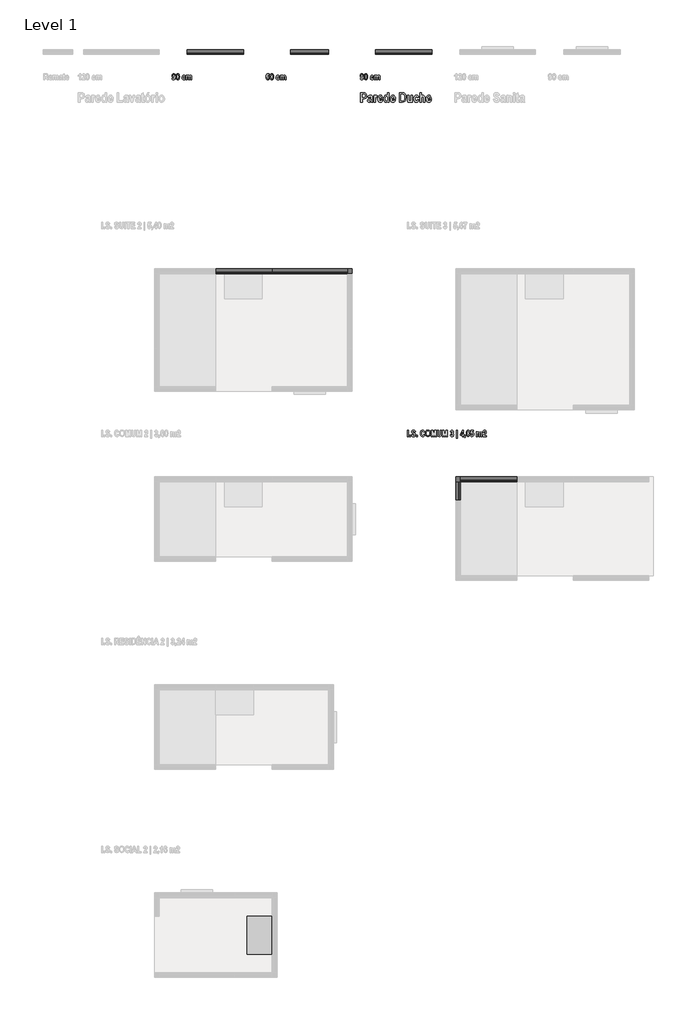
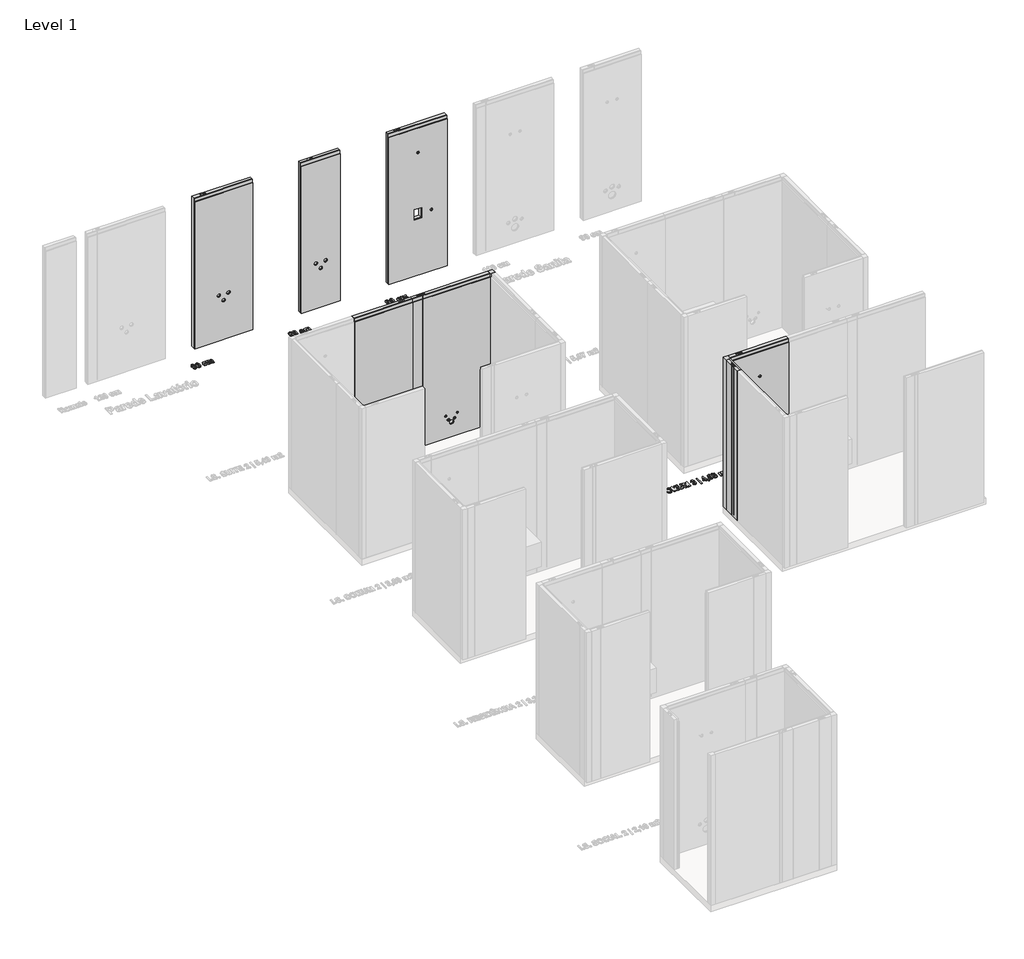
# One storey, part 7 of 10: 15 proxies.
"""IFC4 building model written with IfcOpenShell, lengths in millimetres."""

from ifc_helpers import new_model, si_unit, origin, origin_with_axes, place, context, project, spatial, polyline, outline, extrude, transform, mapped, element, save
from components import generic_models_34b291b7, generic_models_1e0aeaca, generic_models_8d7f3108, generic_models_38e5dddb, generic_models_87e237a0, generic_models_d659e27f, generic_models_1b192000, generic_models_15d7caf9

model = new_model("IFC4")

# Units and contexts
model_context = context("Model", 3, world=origin())
ifc_project = project(units=[si_unit("LENGTHUNIT", "METRE", prefix="MILLI")], contexts=[model_context])

# Site, building, storey
site = spatial("IfcSite", under=ifc_project)
building = spatial("IfcBuilding", under=site)
storey = spatial("IfcBuildingStorey", under=building, Name="Level 1", Elevation=0.0)

# Proxies
placement = place(None, origin())
generic_models_shape = generic_models_34b291b7(model_context)
element("IfcBuildingElementProxy", 1, Name="ParedeLavatório_Blufab : Parede Lavatório - Largura 60 cm", ObjectType="ParedeLavatório_Blufab : Parede Lavatório - Largura 60 cm", at=placement, inside=storey, context=model_context, shape_type="MappedRepresentation", body=[
    mapped(generic_models_shape, transform((-1800.8727752, 7918.7563997, 0.0), x_axis=(1.0, 0.0, 0.0), y_axis=(0.0, 1.0, 0.0), z_axis=(0.0, 0.0, 1.0))),
])
generic_models_2_shape = generic_models_1e0aeaca(model_context)
element("IfcBuildingElementProxy", 2, Name="ParedeLavatório_Blufab : Parede Lavatório - Largura 90 cm", ObjectType="ParedeLavatório_Blufab : Parede Lavatório - Largura 90 cm", at=placement, inside=storey, context=model_context, shape_type="MappedRepresentation", body=[
    mapped(generic_models_2_shape, transform((-3450.8727752, 7918.7563997, 0.0), x_axis=(1.0, 0.0, 0.0), y_axis=(0.0, 1.0, 0.0), z_axis=(0.0, 0.0, 1.0))),
])
generic_models_3_shape = generic_models_8d7f3108(model_context)
element("IfcBuildingElementProxy", 3, Name="ParedeDuche_Blufab : Parede Duche- Largura 90 cm", ObjectType="ParedeDuche_Blufab : Parede Duche- Largura 90 cm", at=placement, inside=storey, context=model_context, shape_type="MappedRepresentation", body=[
    mapped(generic_models_3_shape, transform((-450.8727752, 7918.7563997, 0.0), x_axis=(1.0, 0.0, 0.0), y_axis=(0.0, 1.0, 0.0), z_axis=(0.0, 0.0, 1.0))),
])
element("IfcBuildingElementProxy", 4, Name="ParedeDuche_Blufab : Parede Duche- Largura 90 cm", ObjectType="ParedeDuche_Blufab : Parede Duche- Largura 90 cm", at=placement, inside=storey, context=model_context, shape_type="MappedRepresentation", body=[
    mapped(generic_models_3_shape, transform((903.6595429, 1114.1909428, 0.0), x_axis=(1.0, 0.0, 0.0), y_axis=(0.0, 1.0, 0.0), z_axis=(0.0, 0.0, 1.0))),
])
generic_models_4_shape = generic_models_38e5dddb(model_context)
element("IfcBuildingElementProxy", 5, Name="ParedeBidé_Blufab : Parede Bidé- Largura 120 cm", ObjectType="ParedeBidé_Blufab : Parede Bidé- Largura 120 cm", at=placement, inside=storey, context=model_context, shape_type="MappedRepresentation", body=[
    mapped(generic_models_4_shape, transform((-2096.3404571, 4427.3727477, 0.0), x_axis=(1.0, 0.0, 0.0), y_axis=(0.0, 1.0, 0.0), z_axis=(0.0, 0.0, 1.0))),
])
generic_models_5_shape = generic_models_87e237a0(model_context)
element("IfcBuildingElementProxy", 6, Name="PerfilCanto_Blufab : Parede Geral - Largura 60 cm", ObjectType="PerfilCanto_Blufab : Parede Geral - Largura 60 cm", at=placement, inside=storey, context=model_context, shape_type="MappedRepresentation", body=[
    mapped(generic_models_5_shape, transform((-896.3404571, 4427.3727477, 0.0), x_axis=(1.0, 0.0, 0.0), y_axis=(0.0, 1.0, 0.0), z_axis=(0.0, 0.0, 1.0))),
])
element("IfcBuildingElementProxy", 7, Name="PerfilCanto_Blufab : Parede Geral - Largura 60 cm", ObjectType="PerfilCanto_Blufab : Parede Geral - Largura 60 cm", at=placement, inside=storey, context=model_context, shape_type="MappedRepresentation", body=[
    mapped(generic_models_5_shape, transform((830.6595429, 1114.1909428, 0.0), x_axis=(1.0, 0.0, 0.0), y_axis=(0.0, 1.0, 0.0), z_axis=(0.0, 0.0, 1.0))),
])
generic_models_6_shape = generic_models_d659e27f(model_context)
element("IfcBuildingElementProxy", 8, Name="ParedeLavatório_Blufab : Parede Lavatório - Largura 90 cm", ObjectType="ParedeLavatório_Blufab : Parede Lavatório - Largura 90 cm", at=placement, inside=storey, context=model_context, shape_type="MappedRepresentation", body=[
    mapped(generic_models_6_shape, transform((-2096.3404571, 4427.3727477, 0.0), x_axis=(-1.0, 0.0, 0.0), y_axis=(0.0, -1.0, 0.0), z_axis=(0.0, 0.0, 1.0))),
])
generic_models_7_shape = generic_models_1b192000(model_context)
element("IfcBuildingElementProxy", 9, Name="ParedeGeral_Blufab : Parede Geral - Largura 30 cm", ObjectType="ParedeGeral_Blufab : Parede Geral - Largura 30 cm", at=placement, inside=storey, context=model_context, shape_type="MappedRepresentation", body=[
    mapped(generic_models_7_shape, transform((903.6595429, 1114.1909428, 0.0), x_axis=(0.0, -1.0, 0.0), y_axis=(1.0, 0.0, 0.0), z_axis=(0.0, 0.0, 1.0))),
])
generic_models_8_shape = generic_models_15d7caf9(model_context)
element("IfcBuildingElementProxy", 10, Name="Movél2 : Movél", ObjectType="Movél2 : Movél", at=placement, inside=storey, context=model_context, shape_type="MappedRepresentation", body=[
    mapped(generic_models_8_shape, transform((-13176.7778994, 13179.3735786, 0.0), x_axis=(0.0, -1.0, 0.0), y_axis=(1.0, 0.0, 0.0), z_axis=(0.0, 0.0, 1.0))),
])
element("IfcBuildingElementProxy", 11, Name="24\" Arial", ObjectType="24\" Arial", at=placement, inside=storey, context=model_context, shape_type="SweptSolid", body=[
    extrude(outline(polyline([(-3693.2675308, 7537.2422205), (-3677.0225947, 7538.8667141), (-3674.1860766, 7530.3381226), (-3667.9102009, 7527.4952588), (-3659.0643255, 7532.9906161), (-3654.6350422, 7555.39086), (-3661.5518314, 7549.1086386), (-3670.0931142, 7546.9891821), (-3679.3006932, 7549.2228608), (-3687.3787415, 7555.923897), (-3693.0137037, 7566.3181178), (-3694.8920244, 7579.6313506), (-3692.9819753, 7593.7758672), (-3687.2518279, 7604.5317917), (-3678.7232365, 7611.328013), (-3668.4178551, 7613.5934201), (-3657.0019801, 7610.6648896), (-3647.7817098, 7601.8792982), (-3641.6898587, 7586.3101768), (-3639.6592417, 7563.0310565), (-3641.7723525, 7539.3140844), (-3648.111685, 7523.3451853), (-3657.8205726, 7514.2740384), (-3670.0423487, 7511.2503227), (-3678.5677673, 7512.8430879), (-3685.4623467, 7517.6213836), (-3690.4532225, 7525.7121233), (-3693.2675308, 7537.2422205)]), holes=[polyline([(-3655.9041778, 7579.2252272), (-3659.6100538, 7592.6526822), (-3668.0117317, 7597.348484), (-3675.6138542, 7593.4776203), (-3678.6470883, 7580.5958937), (-3675.3346443, 7567.4222658), (-3667.1741022, 7563.2341182), (-3659.2166218, 7567.2318955), (-3655.9041778, 7579.2252272)])]), origin_with_axes(), (0.0, 0.0, 1.0), 10.0),
    extrude(outline(polyline([(-3603.1335182, 7613.5934201), (-3592.2760629, 7610.7473834), (-3583.715743, 7602.2092735), (-3578.156929, 7586.564004), (-3576.303991, 7562.3964887), (-3578.156929, 7538.2670475), (-3583.715743, 7522.6344693), (-3592.2633715, 7514.0963594), (-3603.0827528, 7511.2503227), (-3613.9402081, 7514.0709767), (-3622.500528, 7522.5329385), (-3628.059342, 7538.1908994), (-3629.9122801, 7562.5995504), (-3628.059342, 7586.6147694), (-3622.500528, 7602.2092735), (-3613.9528995, 7610.7473834), (-3603.1335182, 7613.5934201)]), holes=[polyline([(-3603.1081355, 7597.348484), (-3610.7990974, 7591.256633), (-3613.667344, 7562.3964887), (-3610.7990974, 7533.5617271), (-3603.1081355, 7527.4952588), (-3595.3790995, 7533.5871099), (-3592.548927, 7562.3964887), (-3595.3790995, 7591.256633), (-3603.1081355, 7597.348484)])]), origin_with_axes(), (0.0, 0.0, 1.0), 10.0),
    extrude(outline(polyline([(-3478.8343744, 7564.8586118), (-3495.0793105, 7561.6096246), (-3498.4869397, 7568.9198458), (-3505.4100746, 7571.3565863), (-3514.4082462, 7566.5719449), (-3517.822221, 7550.4158483), (-3514.5224684, 7532.6733322), (-3505.6892844, 7527.4952588), (-3498.8867174, 7530.3635053), (-3495.0793105, 7540.4912077), (-3478.8343744, 7537.2422205), (-3482.2880098, 7525.8707652), (-3487.9531139, 7517.7482972), (-3495.829687, 7512.8748163), (-3505.9177288, 7511.2503227), (-3518.3838136, 7514.0360754), (-3527.1503679, 7522.3933336), (-3532.3379598, 7534.6722208), (-3534.0671571, 7549.2228608), (-3532.0809599, 7565.7596981), (-3526.1223681, 7577.8037953), (-3516.9401718, 7585.1520906), (-3505.283161, 7587.6015223), (-3495.8154092, 7586.2403744), (-3488.2767435, 7582.1569305), (-3478.8343744, 7564.8586118)])), origin_with_axes(), (0.0, 0.0, 1.0), 10.0),
    extrude(outline(polyline([(-3467.4629192, 7585.9770287), (-3452.8424767, 7585.9770287), (-3452.8424767, 7576.0777708), (-3444.2885025, 7584.7459672), (-3434.2369483, 7587.6015223), (-3424.2996163, 7584.7332758), (-3417.4082098, 7576.0523881), (-3408.9050011, 7584.7332758), (-3399.2341876, 7587.6015223), (-3388.7384359, 7584.6825104), (-3382.0373998, 7576.3189066), (-3379.7402643, 7559.6043903), (-3379.7402643, 7512.8748163), (-3395.9852004, 7512.8748163), (-3395.9852004, 7553.6394528), (-3397.8508297, 7567.8283892), (-3404.1076684, 7571.3565863), (-3412.35705, 7566.4196487), (-3415.4791237, 7547.1160957), (-3415.4791237, 7512.8748163), (-3431.7240598, 7512.8748163), (-3431.7240598, 7551.9641938), (-3432.9678127, 7566.9146115), (-3439.6434661, 7571.3565863), (-3445.8622307, 7569.0721421), (-3449.9615388, 7562.3964887), (-3451.2179831, 7547.5222191), (-3451.2179831, 7512.8748163), (-3467.4629192, 7512.8748163), (-3467.4629192, 7585.9770287)])), origin_with_axes(), (0.0, 0.0, 1.0), 10.0),
])
element("IfcBuildingElementProxy", 12, Name="24\" Arial", ObjectType="24\" Arial", at=placement, inside=storey, context=model_context, shape_type="SweptSolid", body=[
    extrude(outline(polyline([(-2141.2837353, 7587.6015223), (-2157.5286714, 7585.9770287), (-2160.1875106, 7594.5056202), (-2166.0826456, 7597.348484), (-2174.1924223, 7591.8150526), (-2178.2663476, 7569.3767347), (-2171.6922251, 7575.7351042), (-2163.6966706, 7577.8545607), (-2154.6477335, 7575.6145363), (-2146.8425494, 7568.8944631), (-2141.4550686, 7558.4558226), (-2139.6592417, 7545.060096), (-2141.5121797, 7530.9504806), (-2147.0709938, 7520.2484944), (-2155.3647952, 7513.4998656), (-2165.422695, 7511.2503227), (-2176.4229281, 7514.182026), (-2185.3608158, 7522.977136), (-2191.2908521, 7538.5557759), (-2193.2675308, 7561.838069), (-2191.2178768, 7585.5360041), (-2185.0689146, 7601.4985575), (-2175.7026937, 7610.5697044), (-2164.0012631, 7613.5934201), (-2155.8343753, 7611.9816178), (-2149.0508454, 7607.1462111), (-2144.0631423, 7599.0364344), (-2141.2837353, 7587.6015223)]), holes=[polyline([(-2177.0225947, 7545.6692811), (-2173.6086199, 7532.1656779), (-2165.8034357, 7527.4952588), (-2158.7216589, 7531.3661225), (-2155.9041778, 7544.0701702), (-2158.9627947, 7557.421477), (-2166.5395344, 7561.6096246), (-2173.9639778, 7557.6118474), (-2177.0225947, 7545.6692811)])]), origin_with_axes(), (0.0, 0.0, 1.0), 10.0),
    extrude(outline(polyline([(-2103.1335182, 7613.5934201), (-2092.2760629, 7610.7473834), (-2083.715743, 7602.2092735), (-2078.156929, 7586.564004), (-2076.303991, 7562.3964887), (-2078.156929, 7538.2670475), (-2083.715743, 7522.6344693), (-2092.2633715, 7514.0963594), (-2103.0827528, 7511.2503227), (-2113.9402081, 7514.0709767), (-2122.500528, 7522.5329385), (-2128.059342, 7538.1908994), (-2129.9122801, 7562.5995504), (-2128.059342, 7586.6147694), (-2122.500528, 7602.2092735), (-2113.9528995, 7610.7473834), (-2103.1335182, 7613.5934201)]), holes=[polyline([(-2103.1081355, 7597.348484), (-2110.7990974, 7591.256633), (-2113.667344, 7562.3964887), (-2110.7990974, 7533.5617271), (-2103.1081355, 7527.4952588), (-2095.3790995, 7533.5871099), (-2092.548927, 7562.3964887), (-2095.3790995, 7591.256633), (-2103.1081355, 7597.348484)])]), origin_with_axes(), (0.0, 0.0, 1.0), 10.0),
    extrude(outline(polyline([(-1978.8343744, 7564.8586118), (-1995.0793105, 7561.6096246), (-1998.4869397, 7568.9198458), (-2005.4100746, 7571.3565863), (-2014.4082462, 7566.5719449), (-2017.822221, 7550.4158483), (-2014.5224684, 7532.6733322), (-2005.6892844, 7527.4952588), (-1998.8867174, 7530.3635053), (-1995.0793105, 7540.4912077), (-1978.8343744, 7537.2422205), (-1982.2880098, 7525.8707652), (-1987.9531139, 7517.7482972), (-1995.829687, 7512.8748163), (-2005.9177288, 7511.2503227), (-2018.3838136, 7514.0360754), (-2027.1503679, 7522.3933336), (-2032.3379598, 7534.6722208), (-2034.0671571, 7549.2228608), (-2032.0809599, 7565.7596981), (-2026.1223681, 7577.8037953), (-2016.9401718, 7585.1520906), (-2005.283161, 7587.6015223), (-1995.8154092, 7586.2403744), (-1988.2767435, 7582.1569305), (-1978.8343744, 7564.8586118)])), origin_with_axes(), (0.0, 0.0, 1.0), 10.0),
    extrude(outline(polyline([(-1967.4629192, 7585.9770287), (-1952.8424767, 7585.9770287), (-1952.8424767, 7576.0777708), (-1944.2885025, 7584.7459672), (-1934.2369483, 7587.6015223), (-1924.2996163, 7584.7332758), (-1917.4082098, 7576.0523881), (-1908.9050011, 7584.7332758), (-1899.2341876, 7587.6015223), (-1888.7384359, 7584.6825104), (-1882.0373998, 7576.3189066), (-1879.7402643, 7559.6043903), (-1879.7402643, 7512.8748163), (-1895.9852004, 7512.8748163), (-1895.9852004, 7553.6394528), (-1897.8508297, 7567.8283892), (-1904.1076684, 7571.3565863), (-1912.35705, 7566.4196487), (-1915.4791237, 7547.1160957), (-1915.4791237, 7512.8748163), (-1931.7240598, 7512.8748163), (-1931.7240598, 7551.9641938), (-1932.9678127, 7566.9146115), (-1939.6434661, 7571.3565863), (-1945.8622307, 7569.0721421), (-1949.9615388, 7562.3964887), (-1951.2179831, 7547.5222191), (-1951.2179831, 7512.8748163), (-1967.4629192, 7512.8748163), (-1967.4629192, 7585.9770287)])), origin_with_axes(), (0.0, 0.0, 1.0), 10.0),
])
element("IfcBuildingElementProxy", 13, Name="24\" Arial", ObjectType="24\" Arial", at=placement, inside=storey, context=model_context, shape_type="SweptSolid", body=[
    extrude(outline(polyline([(-693.2675308, 7537.2422205), (-677.0225947, 7538.8667141), (-674.1860766, 7530.3381226), (-667.9102009, 7527.4952588), (-659.0643255, 7532.9906161), (-654.6350422, 7555.39086), (-661.5518314, 7549.1086386), (-670.0931142, 7546.9891821), (-679.3006932, 7549.2228608), (-687.3787415, 7555.923897), (-693.0137037, 7566.3181178), (-694.8920244, 7579.6313506), (-692.9819753, 7593.7758672), (-687.2518279, 7604.5317917), (-678.7232365, 7611.328013), (-668.4178551, 7613.5934201), (-657.0019801, 7610.6648896), (-647.7817098, 7601.8792982), (-641.6898587, 7586.3101768), (-639.6592417, 7563.0310565), (-641.7723525, 7539.3140844), (-648.111685, 7523.3451853), (-657.8205726, 7514.2740384), (-670.0423487, 7511.2503227), (-678.5677673, 7512.8430879), (-685.4623467, 7517.6213836), (-690.4532225, 7525.7121233), (-693.2675308, 7537.2422205)]), holes=[polyline([(-655.9041778, 7579.2252272), (-659.6100538, 7592.6526822), (-668.0117317, 7597.348484), (-675.6138542, 7593.4776203), (-678.6470883, 7580.5958937), (-675.3346443, 7567.4222658), (-667.1741022, 7563.2341182), (-659.2166218, 7567.2318955), (-655.9041778, 7579.2252272)])]), origin_with_axes(), (0.0, 0.0, 1.0), 10.0),
    extrude(outline(polyline([(-603.1335182, 7613.5934201), (-592.2760629, 7610.7473834), (-583.715743, 7602.2092735), (-578.156929, 7586.564004), (-576.303991, 7562.3964887), (-578.156929, 7538.2670475), (-583.715743, 7522.6344693), (-592.2633715, 7514.0963594), (-603.0827528, 7511.2503227), (-613.9402081, 7514.0709767), (-622.500528, 7522.5329385), (-628.059342, 7538.1908994), (-629.9122801, 7562.5995504), (-628.059342, 7586.6147694), (-622.500528, 7602.2092735), (-613.9528995, 7610.7473834), (-603.1335182, 7613.5934201)]), holes=[polyline([(-603.1081355, 7597.348484), (-610.7990974, 7591.256633), (-613.667344, 7562.3964887), (-610.7990974, 7533.5617271), (-603.1081355, 7527.4952588), (-595.3790995, 7533.5871099), (-592.548927, 7562.3964887), (-595.3790995, 7591.256633), (-603.1081355, 7597.348484)])]), origin_with_axes(), (0.0, 0.0, 1.0), 10.0),
    extrude(outline(polyline([(-478.8343744, 7564.8586118), (-495.0793105, 7561.6096246), (-498.4869397, 7568.9198458), (-505.4100746, 7571.3565863), (-514.4082462, 7566.5719449), (-517.822221, 7550.4158483), (-514.5224684, 7532.6733322), (-505.6892844, 7527.4952588), (-498.8867174, 7530.3635053), (-495.0793105, 7540.4912077), (-478.8343744, 7537.2422205), (-482.2880098, 7525.8707652), (-487.9531139, 7517.7482972), (-495.829687, 7512.8748163), (-505.9177288, 7511.2503227), (-518.3838136, 7514.0360754), (-527.1503679, 7522.3933336), (-532.3379598, 7534.6722208), (-534.0671571, 7549.2228608), (-532.0809599, 7565.7596981), (-526.1223681, 7577.8037953), (-516.9401718, 7585.1520906), (-505.283161, 7587.6015223), (-495.8154092, 7586.2403744), (-488.2767435, 7582.1569305), (-478.8343744, 7564.8586118)])), origin_with_axes(), (0.0, 0.0, 1.0), 10.0),
    extrude(outline(polyline([(-467.4629192, 7585.9770287), (-452.8424767, 7585.9770287), (-452.8424767, 7576.0777708), (-444.2885025, 7584.7459672), (-434.2369483, 7587.6015223), (-424.2996163, 7584.7332758), (-417.4082098, 7576.0523881), (-408.9050011, 7584.7332758), (-399.2341876, 7587.6015223), (-388.7384359, 7584.6825104), (-382.0373998, 7576.3189066), (-379.7402643, 7559.6043903), (-379.7402643, 7512.8748163), (-395.9852004, 7512.8748163), (-395.9852004, 7553.6394528), (-397.8508297, 7567.8283892), (-404.1076684, 7571.3565863), (-412.35705, 7566.4196487), (-415.4791237, 7547.1160957), (-415.4791237, 7512.8748163), (-431.7240598, 7512.8748163), (-431.7240598, 7551.9641938), (-432.9678127, 7566.9146115), (-439.6434661, 7571.3565863), (-445.8622307, 7569.0721421), (-449.9615388, 7562.3964887), (-451.2179831, 7547.5222191), (-451.2179831, 7512.8748163), (-467.4629192, 7512.8748163), (-467.4629192, 7585.9770287)])), origin_with_axes(), (0.0, 0.0, 1.0), 10.0),
])
element("IfcBuildingElementProxy", 14, Name="24\" Arial", ObjectType="24\" Arial", at=placement, inside=storey, context=model_context, shape_type="SweptSolid", body=[
    extrude(outline(polyline([(59.9814564, 1831.1816336), (59.9814564, 1931.9002374), (76.2263925, 1931.9002374), (76.2263925, 1831.1816336), (59.9814564, 1831.1816336)])), origin_with_axes(), (0.0, 0.0, 1.0), 10.0),
    extrude(outline(polyline([(92.4713286, 1831.1816336), (92.4713286, 1850.6755569), (108.7162647, 1850.6755569), (108.7162647, 1831.1816336), (92.4713286, 1831.1816336)])), origin_with_axes(), (0.0, 0.0, 1.0), 10.0),
    extrude(outline(polyline([(121.7122136, 1863.6715058), (137.9571496, 1865.2959994), (143.8142106, 1851.8939271), (155.9027275, 1847.4265697), (167.7564543, 1851.1832112), (172.0715154, 1860.473284), (170.5485527, 1866.0067154), (165.9035163, 1869.7633568), (151.0292467, 1874.9668129), (135.6346314, 1882.0739725), (127.85483, 1892.0239958), (124.9612008, 1905.2991545), (128.7051509, 1920.1607328), (139.0359149, 1930.1488302), (155.3189251, 1933.524731), (168.2704542, 1931.630546), (178.0364529, 1925.9479913), (184.2869459, 1916.7435851), (186.6919579, 1904.283846), (170.4470218, 1902.6593524), (165.7004546, 1912.7743634), (155.2681597, 1915.6553013), (144.8612475, 1912.9139683), (141.2061369, 1906.1114013), (144.0743834, 1899.3849825), (158.6440604, 1892.9631562), (176.6657864, 1885.0691325), (185.3212914, 1874.9287388), (188.3164515, 1859.8387162), (186.3143901, 1848.0421005), (180.3082057, 1838.2887932), (170.0377256, 1831.7400533), (155.242777, 1829.55714), (141.8486368, 1831.6892879), (131.7954962, 1838.0857314), (125.0833551, 1848.7464708), (121.7122136, 1863.6715058)])), origin_with_axes(), (0.0, 0.0, 1.0), 10.0),
    extrude(outline(polyline([(201.3124004, 1831.1816336), (201.3124004, 1850.6755569), (217.5573365, 1850.6755569), (217.5573365, 1831.1816336), (201.3124004, 1831.1816336)])), origin_with_axes(), (0.0, 0.0, 1.0), 10.0),
    extrude(outline(polyline([(318.2759402, 1868.5449866), (334.5208763, 1862.0470122), (329.5204819, 1847.420224), (322.0325817, 1837.3496328), (312.2919657, 1831.5052632), (300.5334241, 1829.55714), (286.0081668, 1832.6601766), (274.5161436, 1841.9692865), (265.9114041, 1858.8107163), (263.0431575, 1880.6525405), (265.9367868, 1903.5731301), (274.6176745, 1920.9095228), (286.4015988, 1930.3709289), (301.6502635, 1933.524731), (314.3543111, 1931.1704844), (324.7992974, 1924.1077446), (334.5208763, 1904.283846), (318.2759402, 1899.4103652), (311.8287312, 1911.4671537), (300.4826587, 1915.6553013), (291.9794499, 1913.6976596), (285.2022657, 1907.8247344), (280.7666366, 1897.4400321), (279.2880936, 1881.9470589), (280.7095255, 1865.9400857), (284.9738213, 1855.3332847), (291.5098698, 1849.4032484), (299.74656, 1847.4265697), (311.2703115, 1852.4904209), (318.2759402, 1868.5449866)])), origin_with_axes(), (0.0, 0.0, 1.0), 10.0),
    extrude(outline(polyline([(345.8923316, 1880.9317504), (351.1846272, 1910.515302), (365.0055142, 1927.826312), (374.4415376, 1932.1001262), (385.692425, 1933.524731), (401.6771883, 1930.1456574), (414.400273, 1920.0084365), (422.7194571, 1903.633414), (425.4925184, 1881.5409355), (422.5544694, 1859.0645434), (413.7403225, 1842.0962), (401.5946945, 1832.691905), (385.7685731, 1829.55714), (369.8282296, 1832.6601766), (357.6445275, 1841.9692865), (348.8303806, 1858.8043706), (345.8923316, 1880.9317504)]), holes=[polyline([(362.1372677, 1881.6170836), (363.8379094, 1866.6508017), (368.9398347, 1855.9678525), (376.5546485, 1849.5618904), (385.7939559, 1847.4265697), (395.0554731, 1849.5460262), (402.5846203, 1855.9043957), (407.5818418, 1866.6539745), (409.2475823, 1881.9470589), (407.6262616, 1896.9323779), (402.7622993, 1907.418611), (395.2775719, 1913.5961287), (385.7939559, 1915.6553013), (376.2849571, 1913.5770917), (368.7240816, 1907.3424629), (363.7839712, 1896.7546989), (362.1372677, 1881.6170836)])]), origin_with_axes(), (0.0, 0.0, 1.0), 10.0),
    extrude(outline(polyline([(438.4884673, 1831.1816336), (438.4884673, 1931.9002374), (465.3433773, 1931.9002374), (478.2885607, 1861.5647406), (491.5891021, 1931.9002374), (518.0886541, 1931.9002374), (518.0886541, 1831.1816336), (501.843718, 1831.1816336), (501.843718, 1912.1017215), (486.4617942, 1831.1816336), (469.6584384, 1831.1816336), (454.7334034, 1912.1017215), (454.7334034, 1831.1816336), (438.4884673, 1831.1816336)])), origin_with_axes(), (0.0, 0.0, 1.0), 10.0),
    extrude(outline(polyline([(534.3335902, 1931.9002374), (550.5785263, 1931.9002374), (550.5785263, 1877.7335286), (551.1877114, 1861.2855308), (556.4419329, 1851.0436063), (567.3818821, 1847.4265697), (576.7607944, 1849.9902237), (581.7358061, 1857.0846919), (583.0683985, 1876.5659238), (583.0683985, 1931.9002374), (599.3133346, 1931.9002374), (599.3133346, 1879.0534296), (597.1811867, 1849.7744706), (593.7101008, 1841.6075828), (587.5611386, 1835.1540281), (578.8802509, 1830.956362), (567.8133882, 1829.55714), (547.9260328, 1834.1894851), (537.5571947, 1847.2361994), (534.3335902, 1878.2158001), (534.3335902, 1931.9002374)])), origin_with_axes(), (0.0, 0.0, 1.0), 10.0),
    extrude(outline(polyline([(617.1827643, 1831.1816336), (617.1827643, 1931.9002374), (644.0376742, 1931.9002374), (656.9828577, 1861.5647406), (670.2833991, 1931.9002374), (696.7829511, 1931.9002374), (696.7829511, 1831.1816336), (680.538015, 1831.1816336), (680.538015, 1912.1017215), (665.1560912, 1831.1816336), (648.3527354, 1831.1816336), (633.4277004, 1912.1017215), (633.4277004, 1831.1816336), (617.1827643, 1831.1816336)])), origin_with_axes(), (0.0, 0.0, 1.0), 10.0),
    extrude(outline(polyline([(742.2687722, 1858.798025), (758.5137083, 1860.4225186), (762.067288, 1849.5587176), (769.0982994, 1845.8020761), (776.5735083, 1850.2567422), (779.6321252, 1862.6054319), (776.4719774, 1874.116492), (768.8190896, 1878.2919483), (761.7626955, 1876.8451336), (763.4633372, 1894.5368844), (772.9564717, 1897.4305136), (776.383138, 1905.9083396), (773.8321753, 1913.0662646), (767.2961268, 1915.6553013), (760.3666463, 1912.36824), (756.8892146, 1902.6593524), (742.2687722, 1904.283846), (745.6415001, 1916.7943505), (751.1907957, 1925.3388061), (758.6945601, 1930.2598796), (767.9306946, 1931.9002374), (778.1091624, 1929.9616327), (785.9524206, 1924.1458187), (790.9591607, 1915.975758), (792.628074, 1906.9744136), (789.5821485, 1895.5141188), (780.444372, 1886.5667126), (791.5746915, 1878.2158001), (795.8770613, 1862.0977776), (793.871827, 1849.2255695), (787.8561241, 1838.783756), (779.0737055, 1831.863794), (768.7683242, 1829.55714), (758.9769428, 1831.5179546), (750.8227463, 1837.4003982), (745.0164508, 1846.671434), (742.2687722, 1858.798025)])), origin_with_axes(), (0.0, 0.0, 1.0), 10.0),
    extrude(outline(polyline([(842.9873759, 1801.9407487), (842.9873759, 1933.524731), (855.9833248, 1933.524731), (855.9833248, 1801.9407487), (842.9873759, 1801.9407487)])), origin_with_axes(), (0.0, 0.0, 1.0), 10.0),
    extrude(outline(polyline([(933.959018, 1831.1816336), (933.959018, 1850.6755569), (901.4691458, 1850.6755569), (901.4691458, 1866.8443449), (936.0657832, 1931.9002374), (950.2039541, 1931.9002374), (950.2039541, 1866.920493), (959.9509158, 1866.920493), (959.9509158, 1850.6755569), (950.2039541, 1850.6755569), (950.2039541, 1831.1816336), (933.959018, 1831.1816336)]), holes=[polyline([(933.959018, 1866.920493), (933.959018, 1901.9232537), (915.7342303, 1866.920493), (933.959018, 1866.920493)])]), origin_with_axes(), (0.0, 0.0, 1.0), 10.0),
    extrude(outline(polyline([(969.6978774, 1850.6755569), (985.9428135, 1850.6755569), (985.9428135, 1836.715065), (983.0491843, 1819.0740797), (971.144692, 1808.4387231), (968.0733838, 1816.3581294), (975.4216791, 1821.650425), (977.8203455, 1831.1816336), (969.6978774, 1831.1816336), (969.6978774, 1850.6755569)])), origin_with_axes(), (0.0, 0.0, 1.0), 10.0),
    extrude(outline(polyline([(1025.7175242, 1931.9002374), (1036.5749795, 1929.0542007), (1045.1352994, 1920.5160907), (1050.6941134, 1904.8708212), (1052.5470515, 1880.703306), (1050.6941134, 1856.5738648), (1045.1352994, 1840.9412866), (1036.5876709, 1832.4031767), (1025.7682896, 1829.55714), (1014.9108343, 1832.3777939), (1006.3505145, 1840.8397558), (1000.7917004, 1856.4977166), (998.9387624, 1880.9063677), (1000.7917004, 1904.9215867), (1006.3505145, 1920.5160907), (1014.8981429, 1929.0542007), (1025.7175242, 1931.9002374)]), holes=[polyline([(1025.7429069, 1915.6553013), (1018.051945, 1909.5634502), (1015.1836985, 1880.703306), (1018.051945, 1851.8685444), (1025.7429069, 1845.8020761), (1033.4719429, 1851.8939271), (1036.3021154, 1880.703306), (1033.4719429, 1909.5634502), (1025.7429069, 1915.6553013)])]), origin_with_axes(), (0.0, 0.0, 1.0), 10.0),
    extrude(outline(polyline([(1062.2940131, 1858.798025), (1078.5389492, 1860.4225186), (1082.4732697, 1849.7110138), (1089.7834909, 1845.8020761), (1097.8932676, 1850.7390137), (1101.2818597, 1865.8798018), (1097.8171195, 1880.170269), (1088.9966268, 1884.7899227), (1082.5367264, 1883.1654291), (1076.7621593, 1878.2919483), (1063.9185067, 1879.9164419), (1072.0409748, 1930.2757438), (1114.2778086, 1930.2757438), (1114.2778086, 1914.0308077), (1085.8745532, 1914.0308077), (1082.7017141, 1894.4861189), (1093.2101571, 1901.0348588), (1101.9227732, 1899.0423159), (1109.2266488, 1893.064687), (1115.4517591, 1881.293454), (1117.5267958, 1866.2859252), (1115.7055862, 1853.1281615), (1110.2419573, 1841.0682002), (1101.3960819, 1832.434905), (1089.4281329, 1829.55714), (1079.3860972, 1831.4576706), (1071.1398885, 1837.1592624), (1065.254272, 1846.3700143), (1062.2940131, 1858.798025)])), origin_with_axes(), (0.0, 0.0, 1.0), 10.0),
    extrude(outline(polyline([(1161.3881233, 1904.283846), (1176.0085657, 1904.283846), (1176.0085657, 1894.3845881), (1184.5625399, 1903.0527844), (1194.6140941, 1905.9083396), (1204.5514261, 1903.0400931), (1211.4428326, 1894.3592054), (1219.9460413, 1903.0400931), (1229.6168548, 1905.9083396), (1240.1126065, 1902.9893277), (1246.8136427, 1894.6257239), (1249.1107781, 1877.9112076), (1249.1107781, 1831.1816336), (1232.8658421, 1831.1816336), (1232.8658421, 1871.9462701), (1231.0002127, 1886.1352065), (1224.743374, 1889.6634035), (1216.4939924, 1884.7264659), (1213.3719187, 1865.422913), (1213.3719187, 1831.1816336), (1197.1269827, 1831.1816336), (1197.1269827, 1870.2710111), (1195.8832297, 1885.2214288), (1189.2075763, 1889.6634035), (1182.9888117, 1887.3789594), (1178.8895036, 1880.703306), (1177.6330594, 1865.8290364), (1177.6330594, 1831.1816336), (1161.3881233, 1831.1816336), (1161.3881233, 1904.283846)])), origin_with_axes(), (0.0, 0.0, 1.0), 10.0),
    extrude(outline(polyline([(1314.0905225, 1847.4265697), (1314.0905225, 1831.1816336), (1258.8577398, 1831.1816336), (1264.2388749, 1850.3836557), (1281.7021812, 1874.2814797), (1294.3427721, 1890.2218232), (1297.8455864, 1902.430908), (1295.015414, 1912.3174746), (1287.5909705, 1915.6553013), (1279.8365518, 1912.0001907), (1276.7271695, 1901.0348588), (1260.4822334, 1902.6593524), (1263.3441343, 1915.7536593), (1269.0362076, 1924.8311519), (1277.3173176, 1930.132966), (1287.9463285, 1931.9002374), (1299.3209566, 1929.7553981), (1307.5037086, 1923.3208805), (1312.443819, 1914.1133015), (1314.0905225, 1903.6492782), (1312.4152635, 1891.4782675), (1307.2498814, 1879.6118493), (1295.6119077, 1864.3822217), (1286.004551, 1852.8584702), (1282.7428724, 1847.4265697), (1314.0905225, 1847.4265697)])), origin_with_axes(), (0.0, 0.0, 1.0), 10.0),
])
element("IfcBuildingElementProxy", 15, Name="24\" Arial 2", ObjectType="24\" Arial 2", at=placement, inside=storey, context=model_context, shape_type="SweptSolid", body=[
    extrude(outline(polyline([(-685.9573096, 7157.133031), (-685.9573096, 7308.2109366), (-645.7130187, 7308.2109366), (-616.3198374, 7306.0407147), (-606.2444869, 7300.4961784), (-598.1013954, 7290.9443464), (-592.7186739, 7277.7183667), (-590.9244334, 7261.1513874), (-592.4854703, 7245.9598339), (-597.1685807, 7233.4334652), (-604.1932465, 7223.9054294), (-612.778949, 7217.7088747), (-625.5242436, 7214.3107641), (-645.0276854, 7213.1780605), (-661.5899054, 7213.1780605), (-661.5899054, 7157.133031), (-685.9573096, 7157.133031)]), holes=[polyline([(-661.5899054, 7283.8435325), (-661.5899054, 7237.5454646), (-647.0836852, 7237.5454646), (-627.2470952, 7239.6585755), (-618.6423556, 7247.2733893), (-615.2918376, 7260.8087208), (-618.7565778, 7274.4963486), (-627.3042063, 7281.9588661), (-648.8350923, 7283.8435325), (-661.5899054, 7283.8435325)])]), origin_with_axes(), (0.0, 0.0, 1.0), 10.0),
    extrude(outline(polyline([(-549.4998464, 7230.2352434), (-573.8672505, 7235.1087242), (-568.7558068, 7250.7476481), (-561.1124374, 7261.2656096), (-550.2613278, 7267.2337199), (-535.5266631, 7269.22309), (-512.853555, 7264.9968684), (-501.6788158, 7253.4794625), (-498.3282977, 7226.9989475), (-498.5567421, 7193.1511002), (-497.4716312, 7171.9438438), (-493.4548169, 7157.133031), (-517.822221, 7157.133031), (-520.7919984, 7169.0121405), (-533.3564412, 7158.2752531), (-547.596143, 7154.6962906), (-559.0849933, 7156.876031), (-568.2703624, 7163.4152524), (-574.2955838, 7173.5715103), (-576.303991, 7186.6023604), (-573.029621, 7202.6125064), (-563.8156963, 7213.5207271), (-544.7786619, 7220.7548002), (-522.6957019, 7227.798503), (-523.7808128, 7238.85902), (-527.7785901, 7243.1804268), (-536.021626, 7244.8556859), (-544.4931063, 7241.7716863), (-549.4998464, 7230.2352434)]), holes=[polyline([(-522.6957019, 7208.3045797), (-535.6028112, 7204.6494691), (-548.8145132, 7199.2429513), (-551.9365868, 7191.5900634), (-548.4908836, 7182.6807313), (-539.867107, 7179.0636947), (-530.7102934, 7181.976361), (-524.447109, 7188.8868045), (-522.6957019, 7203.4310989), (-522.6957019, 7208.3045797)])]), origin_with_axes(), (0.0, 0.0, 1.0), 10.0),
    extrude(outline(polyline([(-452.0302299, 7157.133031), (-476.397634, 7157.133031), (-476.397634, 7266.7863496), (-454.4669703, 7266.7863496), (-454.4669703, 7251.3282776), (-444.8532679, 7265.7012386), (-435.0872692, 7269.22309), (-420.3526045, 7263.7784982), (-427.7008998, 7237.735835), (-437.752454, 7242.4189455), (-445.6528233, 7238.7828719), (-450.5453412, 7225.6473181), (-452.0302299, 7190.6762858), (-452.0302299, 7157.133031)])), origin_with_axes(), (0.0, 0.0, 1.0), 10.0),
    extrude(outline(polyline([(-356.9973538, 7191.2473968), (-332.6299496, 7186.373916), (-338.7075229, 7172.3483808), (-347.4217254, 7162.4824377), (-358.5441128, 7156.6428274), (-371.8462406, 7154.6962906), (-389.5221272, 7158.0277716), (-402.6481624, 7168.0222147), (-412.2713834, 7186.5833233), (-415.4791237, 7211.3505052), (-412.2904204, 7236.060576), (-402.7243106, 7255.2879808), (-390.3597567, 7265.7393127), (-374.816018, 7269.22309), (-357.8349833, 7265.6536461), (-344.965948, 7254.9453142), (-335.6282826, 7234.7279835), (-332.5157274, 7206.7435429), (-332.6299496, 7203.4310989), (-391.1117195, 7203.4310989), (-389.5839975, 7193.1273039), (-385.3815722, 7185.4411013), (-379.2754434, 7180.6580464), (-372.036611, 7179.0636947), (-362.6418345, 7182.1096202), (-356.9973538, 7191.2473968)]), holes=[polyline([(-356.9973538, 7220.4882817), (-362.1754271, 7238.7447978), (-373.7880182, 7244.8556859), (-380.3557951, 7243.2660935), (-385.819424, 7238.4973164), (-390.6929048, 7220.4882817), (-356.9973538, 7220.4882817)])]), origin_with_axes(), (0.0, 0.0, 1.0), 10.0),
    extrude(outline(polyline([(-232.7235927, 7157.133031), (-254.6542564, 7157.133031), (-254.6542564, 7173.0860659), (-267.5804028, 7159.2842159), (-282.9052156, 7154.6962906), (-297.0211766, 7158.4513456), (-309.2143972, 7169.7165108), (-317.638285, 7187.939712), (-320.4462476, 7212.5688754), (-317.7382294, 7237.1885202), (-309.6141749, 7254.9262771), (-297.5304173, 7265.6488868), (-282.9432896, 7269.22309), (-268.9891434, 7265.4347202), (-257.0909968, 7254.0696106), (-257.0909968, 7308.2109366), (-232.7235927, 7308.2109366), (-232.7235927, 7157.133031)]), holes=[polyline([(-296.0788434, 7213.8633938), (-293.5849919, 7192.8845818), (-286.465141, 7182.528435), (-276.0518831, 7179.0636947), (-268.8320878, 7181.0673426), (-262.6307738, 7187.0782862), (-258.3617189, 7197.1250812), (-256.9387005, 7211.236283), (-258.3236448, 7226.6229661), (-262.4784776, 7236.9933906), (-268.7654582, 7242.8901121), (-276.546846, 7244.8556859), (-284.0807524, 7242.9234269), (-290.3867701, 7237.1266499), (-294.6558251, 7227.4463179), (-296.0788434, 7213.8633938)])]), origin_with_axes(), (0.0, 0.0, 1.0), 10.0),
    extrude(outline(polyline([(-157.1846399, 7191.2473968), (-132.8172357, 7186.373916), (-138.894809, 7172.3483808), (-147.6090115, 7162.4824377), (-158.7313989, 7156.6428274), (-172.0335268, 7154.6962906), (-189.7094133, 7158.0277716), (-202.8354485, 7168.0222147), (-212.4586695, 7186.5833233), (-215.6664098, 7211.3505052), (-212.4777065, 7236.060576), (-202.9115967, 7255.2879808), (-190.5470428, 7265.7393127), (-175.0033041, 7269.22309), (-158.0222694, 7265.6536461), (-145.1532341, 7254.9453142), (-135.8155687, 7234.7279835), (-132.7030135, 7206.7435429), (-132.8172357, 7203.4310989), (-191.2990056, 7203.4310989), (-189.7712836, 7193.1273039), (-185.5688583, 7185.4411013), (-179.4627295, 7180.6580464), (-172.2238971, 7179.0636947), (-162.8291206, 7182.1096202), (-157.1846399, 7191.2473968)]), holes=[polyline([(-157.1846399, 7220.4882817), (-162.3627132, 7238.7447978), (-173.9753043, 7244.8556859), (-180.5430812, 7243.2660935), (-186.0067101, 7238.4973164), (-190.8801909, 7220.4882817), (-157.1846399, 7220.4882817)])]), origin_with_axes(), (0.0, 0.0, 1.0), 10.0),
    extrude(outline(polyline([(-67.0252446, 7308.2109366), (-22.0597691, 7308.2109366), (3.6783015, 7304.3464186), (19.6694105, 7291.30605), (31.1487422, 7267.5097569), (35.3178528, 7231.110947), (30.9583719, 7197.0727293), (19.8978549, 7174.1521398), (3.6973385, 7161.4163638), (-20.7271767, 7157.133031), (-67.0252446, 7157.133031), (-67.0252446, 7308.2109366)]), holes=[polyline([(-42.6578404, 7283.8435325), (-42.6578404, 7181.5004351), (-23.6969541, 7181.5004351), (-6.0686602, 7183.8229533), (2.8977831, 7190.828582), (8.6660045, 7205.6393949), (10.9504487, 7232.2912431), (8.6088934, 7259.3999802), (1.3177092, 7274.9913115), (-10.7136966, 7282.472866), (-31.1975457, 7283.8435325), (-42.6578404, 7283.8435325)])]), origin_with_axes(), (0.0, 0.0, 1.0), 10.0),
    extrude(outline(polyline([(115.7302864, 7157.133031), (115.7302864, 7175.5228063), (102.9754733, 7160.2170306), (86.4894015, 7154.6962906), (70.8980702, 7159.341327), (60.6371087, 7172.5530289), (57.2485165, 7197.415396), (57.2485165, 7266.7863496), (81.6159207, 7266.7863496), (81.6159207, 7217.7088747), (82.6248835, 7190.9808783), (87.0795495, 7182.1857684), (95.3987336, 7179.0636947), (105.6406582, 7183.1376201), (111.8086573, 7193.6079891), (113.293546, 7221.706652), (113.293546, 7266.7863496), (137.6609502, 7266.7863496), (137.6609502, 7157.133031), (115.7302864, 7157.133031)])), origin_with_axes(), (0.0, 0.0, 1.0), 10.0),
    extrude(outline(polyline([(240.0040475, 7235.1087242), (215.6366434, 7230.2352434), (210.5251996, 7241.2005753), (200.1404973, 7244.8556859), (192.5780354, 7243.0614454), (186.6432399, 7237.6787239), (182.8025182, 7228.0317067), (181.5222776, 7213.444579), (182.7596848, 7197.3678034), (186.4719066, 7186.8308048), (192.259165, 7181.0054722), (199.7216826, 7179.0636947), (209.925533, 7183.3660645), (215.6366434, 7198.557618), (240.0040475, 7193.6841372), (234.8235945, 7176.6269543), (226.3259382, 7164.4432522), (214.5110787, 7157.133031), (199.3790159, 7154.6962906), (180.6798888, 7158.8749197), (167.5300573, 7171.4108069), (159.7486694, 7189.8291377), (157.1548735, 7211.6550978), (160.1341694, 7236.4603537), (169.0720571, 7254.5264994), (182.8453515, 7265.5489424), (200.3308677, 7269.22309), (214.5324954, 7267.1813681), (225.8404939, 7261.0562022), (234.3119742, 7250.4858888), (240.0040475, 7235.1087242)])), origin_with_axes(), (0.0, 0.0, 1.0), 10.0),
    extrude(outline(polyline([(281.4286346, 7308.2109366), (281.4286346, 7252.9273885), (293.5361885, 7265.1682017), (307.9662606, 7269.22309), (317.4800186, 7267.8048309), (325.308999, 7263.5500537), (335.2653681, 7247.4447226), (337.4736641, 7221.4401335), (337.4736641, 7157.133031), (313.1062599, 7157.133031), (313.1062599, 7213.6349493), (310.7075936, 7238.1927238), (306.2148534, 7243.1899454), (299.361521, 7244.8556859), (291.8133369, 7243.0566861), (286.1498191, 7237.6596869), (282.6089307, 7227.3225771), (281.4286346, 7210.703246), (281.4286346, 7157.133031), (257.0612304, 7157.133031), (257.0612304, 7308.2109366), (281.4286346, 7308.2109366)])), origin_with_axes(), (0.0, 0.0, 1.0), 10.0),
    extrude(outline(polyline([(415.4493573, 7191.2473968), (439.8167614, 7186.373916), (433.7391882, 7172.3483808), (425.0249856, 7162.4824377), (413.9025982, 7156.6428274), (400.6004704, 7154.6962906), (382.9245839, 7158.0277716), (369.7985486, 7168.0222147), (360.1753277, 7186.5833233), (356.9675874, 7211.3505052), (360.1562906, 7236.060576), (369.7224005, 7255.2879808), (382.0869544, 7265.7393127), (397.630693, 7269.22309), (414.6117278, 7265.6536461), (427.4807631, 7254.9453142), (436.8184285, 7234.7279835), (439.9309836, 7206.7435429), (439.8167614, 7203.4310989), (381.3349915, 7203.4310989), (382.8627135, 7193.1273039), (387.0651389, 7185.4411013), (393.1712677, 7180.6580464), (400.4101, 7179.0636947), (409.8048766, 7182.1096202), (415.4493573, 7191.2473968)]), holes=[polyline([(415.4493573, 7220.4882817), (410.2712839, 7238.7447978), (398.6586929, 7244.8556859), (392.090916, 7243.2660935), (386.6272871, 7238.4973164), (381.7538063, 7220.4882817), (415.4493573, 7220.4882817)])]), origin_with_axes(), (0.0, 0.0, 1.0), 10.0),
])

save(model, "model.ifc")
